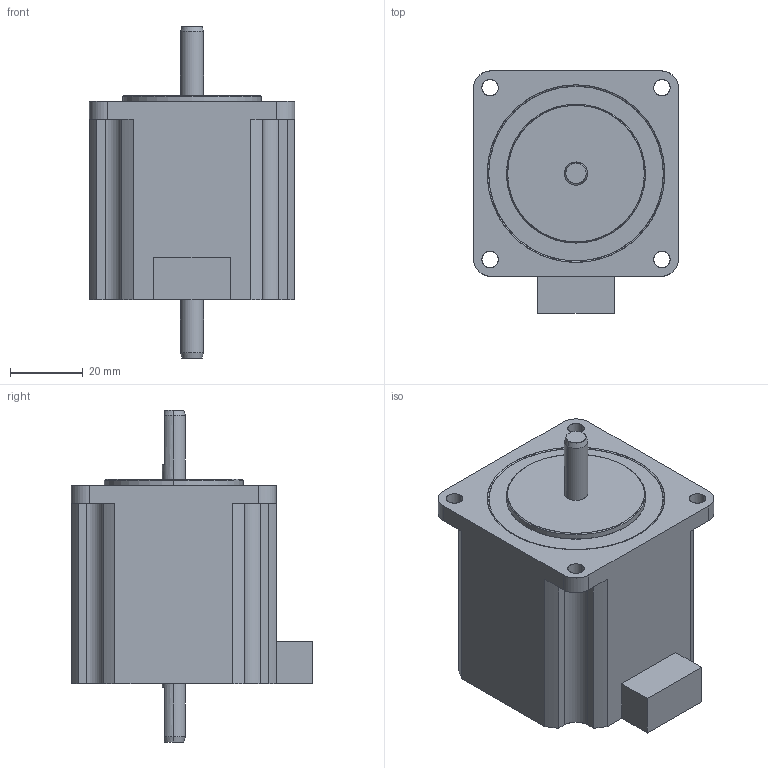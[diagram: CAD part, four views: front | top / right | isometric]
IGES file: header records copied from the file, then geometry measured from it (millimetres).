
Start section: SolidWorks IGES file using analytic representation for surfaces
Global section: file name: \\MCADserv\kari\7666\Plexmotion New 3D data\PMSA-U56D3D_3D\PMSA-U56D3D_3D.IGS; native system: SolidWorks 2014; preprocessor: SolidWorks 2014; author: user0016; date: 161115.135005; units: millimetre
Bounding box: 56.4 x 66.4 x 91.1 mm (x, y, z)
Surface area: 19295.1 mm2 (no closed solid volume)
Topology: 0 solids, 0 shells, 70 faces, 1108 edges, 1108 vertices
Faces by surface type: revolution 40, bspline 30
